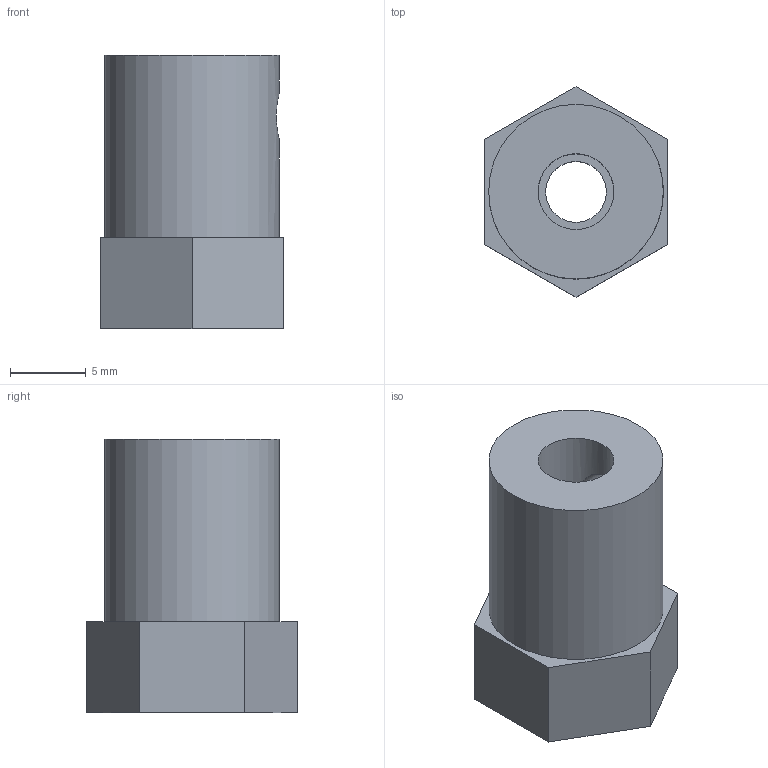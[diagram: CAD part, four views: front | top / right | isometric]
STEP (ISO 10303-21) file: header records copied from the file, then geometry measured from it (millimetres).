
FILE_DESCRIPTION(/* description */ ('STEP AP242','CAx-IF Rec.Pracs.---Representation and Presentation of Product Manufacturing Information (PMI)---4.0---2014-10-13','CAx-IF Rec.Pracs.---3D Tessellated Geometry---0.4---2014-09-14','2;1'),/* implementation_level */ '2;1');
FILE_NAME(/* name */ 'Arm Assembly - Hex Adapter',/* time_stamp */ '2025-06-20T22:34:11Z',/* author */ (''),/* organization */ (''),/* preprocessor_version */ 'ST-DEVELOPER v20',/* originating_system */ 'ONSHAPE BY PTC INC, 1.199',/* authorisation */ ' ');
FILE_SCHEMA (('AP242_MANAGED_MODEL_BASED_3D_ENGINEERING_MIM_LF { 1 0 10303 442 1 1 4 }'));
Length unit declared in the file: metre
Products named in the file (1): Hex Adapter
Bounding box: 12 x 13.86 x 18 mm (x, y, z)
Volume: 1659.8 mm3; surface area: 1186.8 mm2
Topology: 1 solids, 1 shells, 15 faces, 36 edges, 23 vertices
Faces by surface type: plane 10, cylinder 4, cone 1
Full cylindrical faces by diameter (mm): 3 x1, 4 x1, 5 x1, 11.5 x1
Entity records: 430 total; most frequent: CARTESIAN_POINT 88, DIRECTION 64, ORIENTED_EDGE 54, EDGE_CURVE 27, EDGE_LOOP 26, FACE_BOUND 26, AXIS2_PLACEMENT_3D 23, VERTEX_POINT 21
